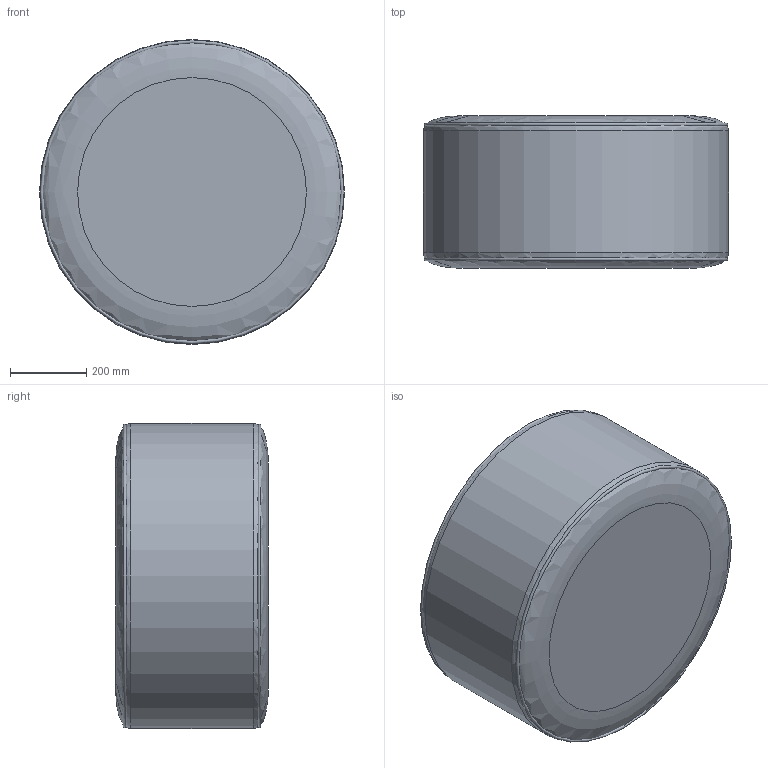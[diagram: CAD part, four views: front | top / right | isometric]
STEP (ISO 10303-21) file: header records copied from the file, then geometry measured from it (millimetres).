
FILE_DESCRIPTION(/* description */ (''),/* implementation_level */ '2;1');
FILE_NAME(/* name */ 'U:/01 COLLECTIE/02 OUTDOOR/01 Producten/Olaf/3D/Vincentsheppard_Olaf80.step',/* time_stamp */ '2021-11-24T13:44:16+01:00',/* author */ (''),/* organization */ (''),/* preprocessor_version */ 'ST-DEVELOPER v18.1',/* originating_system */ 'Autodesk Translation Framework v10.10.0.1391',/* authorisation */ '');
FILE_SCHEMA (('AUTOMOTIVE_DESIGN { 1 0 10303 214 3 1 1 }'));
Length unit declared in the file: millimetre
Products named in the file (1): Vincentsheppard_Olaf80
Bounding box: 800 x 400 x 800 mm (x, y, z)
Volume: 197831537.6 mm3; surface area: 2019278 mm2
Topology: 3 solids, 3 shells, 7 faces, 13 edges, 8 vertices
Faces by surface type: bspline 2, plane 2, torus 2, cylinder 1
Full cylindrical faces by diameter (mm): 800 x1
Entity records: 409 total; most frequent: CARTESIAN_POINT 225, DIRECTION 33, ORIENTED_EDGE 26, AXIS2_PLACEMENT_3D 16, EDGE_CURVE 13, CIRCLE 10, VERTEX_POINT 8, FACE_OUTER_BOUND 7
